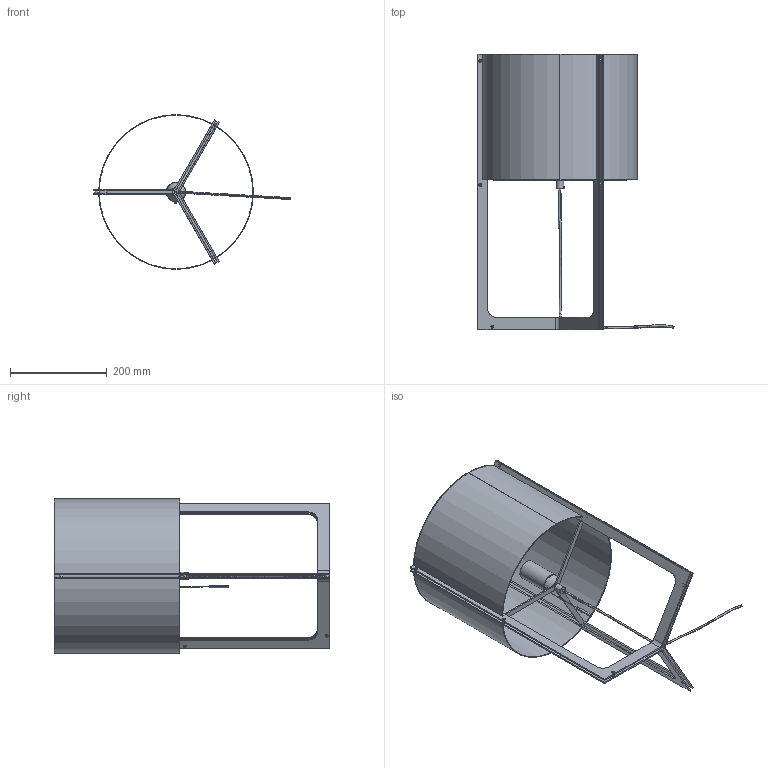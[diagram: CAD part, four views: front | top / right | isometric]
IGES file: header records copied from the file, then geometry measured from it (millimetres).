
Start section: SolidWorks IGES file using analytic representation for surfaces
Global section: file name: C:\Users\libre2.DOMINIO\Desktop\CARPYEN\3D\GABRIEL TEIXIDO\NIRVANA\nirvana_32\NIRVANA 32_table.IGS; native system: SolidWorks 2014; preprocessor: SolidWorks 2014; author: libre2; date: 160314.105347; units: millimetre
Bounding box: 406.31 x 570 x 320 mm (x, y, z)
Surface area: 741831.1 mm2 (no closed solid volume)
Topology: 0 solids, 0 shells, 354 faces, 5196 edges, 5196 vertices
Faces by surface type: bspline 220, revolution 134
